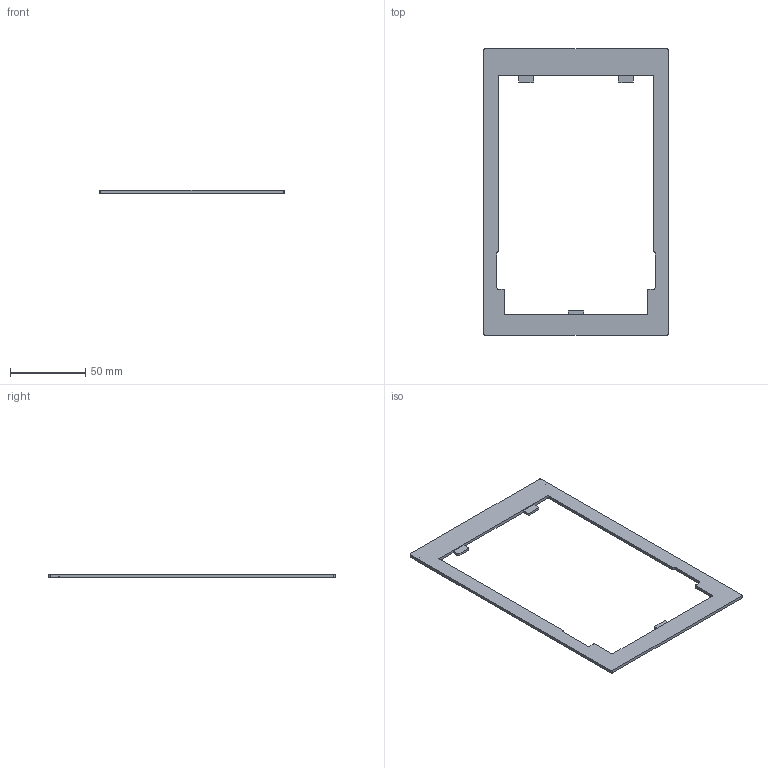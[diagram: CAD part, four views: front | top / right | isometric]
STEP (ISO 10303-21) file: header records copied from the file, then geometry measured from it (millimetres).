
FILE_DESCRIPTION(/* description */ (''),/* implementation_level */ '2;1');
FILE_NAME(/* name */ '1000126',/* time_stamp */ '2014-06-16T14:26:04+02:00',/* author */ (''),/* organization */ (''),/* preprocessor_version */ 'ST-DEVELOPER v9',/* originating_system */ 'UGS - NX 4.0',/* authorisation */ '');
FILE_SCHEMA (('CONFIG_CONTROL_DESIGN'));
Length unit declared in the file: millimetre
Products named in the file (1): MTroCFD28y3u
Bounding box: 123 x 190 x 2.3 mm (x, y, z)
Volume: 14340.7 mm3; surface area: 16823.6 mm2
Topology: 1 solids, 1 shells, 102 faces, 289 edges, 192 vertices
Faces by surface type: plane 76, cylinder 26
Entity records: 3379 total; most frequent: CARTESIAN_POINT 584, ORIENTED_EDGE 578, DIRECTION 547, EDGE_CURVE 289, LINE 237, VECTOR 237, VERTEX_POINT 192, AXIS2_PLACEMENT_3D 155
